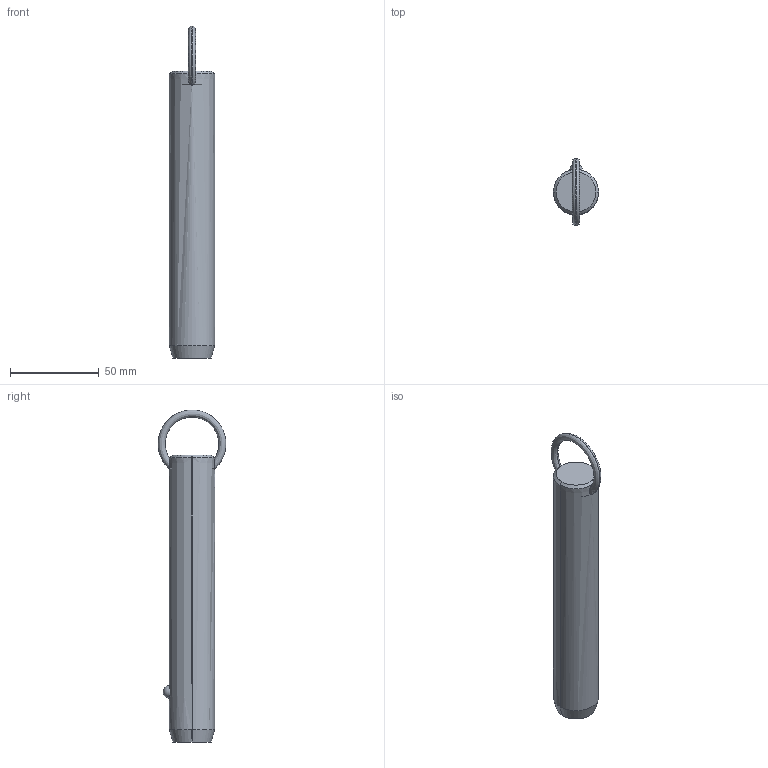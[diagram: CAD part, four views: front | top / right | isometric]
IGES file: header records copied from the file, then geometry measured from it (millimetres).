
Start section: SolidWorks IGES file using analytic representation for surfaces
Global section: file name: C:\Users\liam_\OneDrive\Documents\WORK\Work for WixRoyd\Job Files\J-00019 - Matt Davis CAD Checking\04. CAD Drawings\automotion20190605\P1250.2_v2\P1250.2_v2_20190729_IGES\P1250.100-460.igs; native system: SolidWorks 2017; preprocessor: SolidWorks 2017; author: liam_; date: 190730.174025; units: millimetre
Bounding box: 25.4 x 38.09 x 186.59 mm (x, y, z)
Surface area: 14636.5 mm2 (no closed solid volume)
Topology: 0 solids, 0 shells, 12 faces, 298 edges, 296 vertices
Faces by surface type: revolution 8, bspline 4
